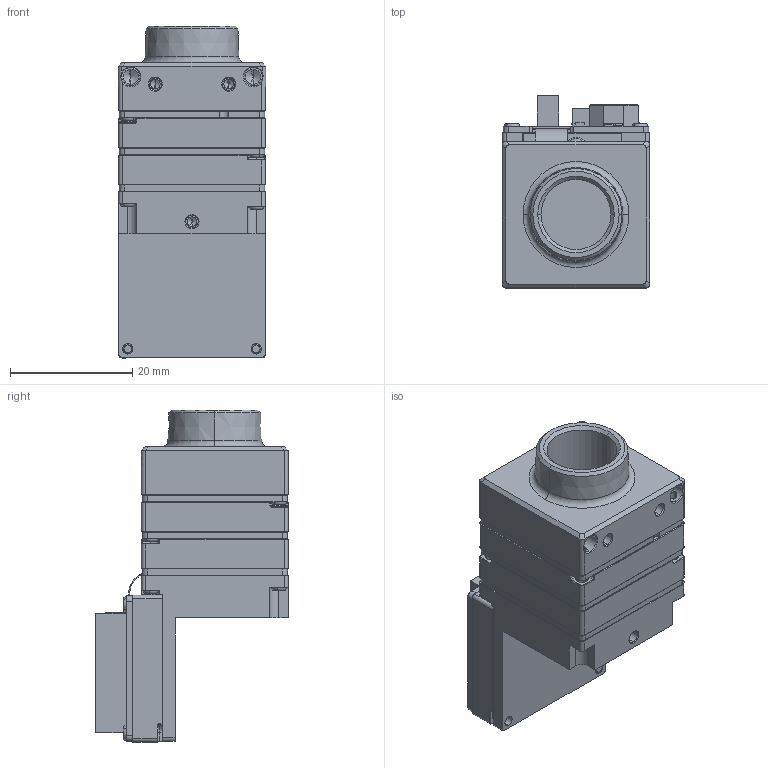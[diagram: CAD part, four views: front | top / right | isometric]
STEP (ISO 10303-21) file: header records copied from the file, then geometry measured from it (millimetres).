
FILE_DESCRIPTION (( 'STEP AP203' ), '1' );
FILE_NAME ('434-018-B_FFC_90.STEP', '2025-04-21T19:22:21', ( '' ), ( '' ), 'SwSTEP 2.0', 'SolidWorks 2021', '' );
FILE_SCHEMA (( 'CONFIG_CONTROL_DESIGN' ));
Length unit declared in the file: millimetre
Products named in the file (1): 434-018-B_FFC_90
Bounding box: 24.13 x 31.45 x 54.3 mm (x, y, z)
Volume: 11000.5 mm3; surface area: 17617.3 mm2
Topology: 65 solids, 65 shells, 4501 faces, 11515 edges, 6993 vertices
Faces by surface type: plane 2449, cylinder 1220, bspline 332, cone 304, torus 132, sphere 64
Entity records: 138946 total; most frequent: CARTESIAN_POINT 32022, ORIENTED_EDGE 22546, DIRECTION 21725, EDGE_CURVE 11273, LINE 7801, VECTOR 7801, VERTEX_POINT 6989, AXIS2_PLACEMENT_3D 6962
